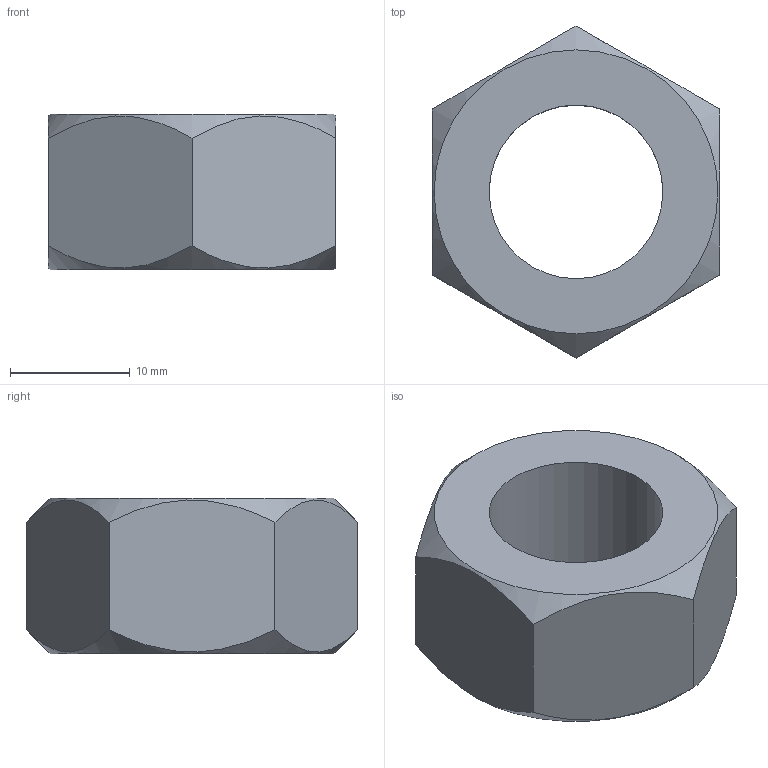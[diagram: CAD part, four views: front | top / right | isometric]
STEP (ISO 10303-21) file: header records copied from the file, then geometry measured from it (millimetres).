
FILE_DESCRIPTION(/* description */ (''),/* implementation_level */ '2;1');
FILE_NAME(/* name */ 'D:\조절자\NUT\M16 NUT.stp',/* time_stamp */ '2016-03-14T15:29:09+09:00',/* author */ ('GS-DT-1-001'),/* organization */ (''),/* preprocessor_version */ 'ST-DEVELOPER v15.6',/* originating_system */ 'Autodesk Inventor LT ',/* authorisation */ '');
FILE_SCHEMA (('AUTOMOTIVE_DESIGN { 1 0 10303 214 3 1 1 }'));
Length unit declared in the file: millimetre
Products named in the file (1): M16 NUT
Bounding box: 24 x 27.71 x 13 mm (x, y, z)
Volume: 4271.2 mm3; surface area: 2258 mm2
Topology: 1 solids, 1 shells, 11 faces, 25 edges, 16 vertices
Faces by surface type: plane 8, cone 2, cylinder 1
Full cylindrical faces by diameter (mm): 14.5 x1
Entity records: 308 total; most frequent: CARTESIAN_POINT 74, ORIENTED_EDGE 44, DIRECTION 38, EDGE_CURVE 22, EDGE_LOOP 16, VERTEX_POINT 16, AXIS2_PLACEMENT_3D 16, FACE_OUTER_BOUND 11
